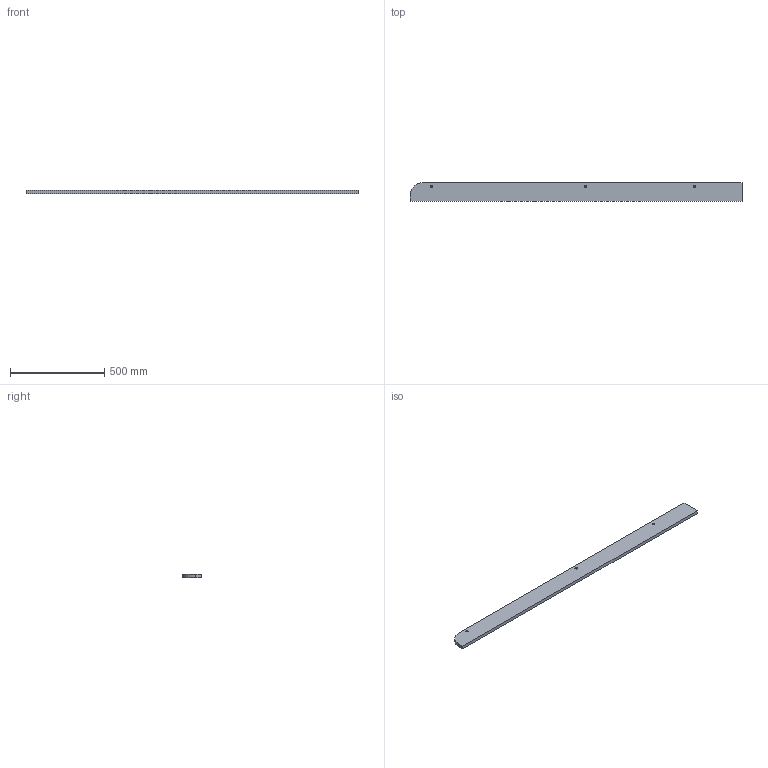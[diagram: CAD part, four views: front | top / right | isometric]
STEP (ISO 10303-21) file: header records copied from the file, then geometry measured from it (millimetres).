
FILE_DESCRIPTION (( 'STEP AP214' ), '1' );
FILE_NAME ('PANAC0026.STEP', '2025-01-27T10:12:23', ( '' ), ( '' ), 'SwSTEP 2.0', 'SolidWorks 2022', '' );
FILE_SCHEMA (( 'AUTOMOTIVE_DESIGN' ));
Length unit declared in the file: millimetre
Products named in the file (1): PANAC0026
Bounding box: 1765 x 100 x 18 mm (x, y, z)
Volume: 3155513.4 mm3; surface area: 418579.5 mm2
Topology: 1 solids, 1 shells, 25 faces, 57 edges, 31 vertices
Faces by surface type: cone 12, cylinder 7, plane 6
Entity records: 687 total; most frequent: DIRECTION 123, CARTESIAN_POINT 108, ORIENTED_EDGE 102, EDGE_CURVE 51, AXIS2_PLACEMENT_3D 46, VERTEX_POINT 31, LINE 31, VECTOR 31
